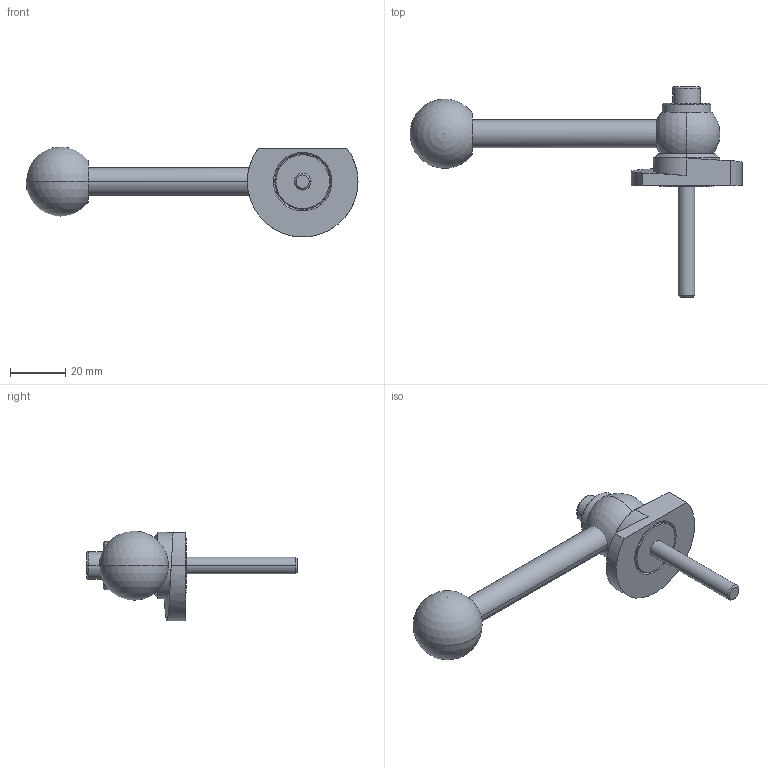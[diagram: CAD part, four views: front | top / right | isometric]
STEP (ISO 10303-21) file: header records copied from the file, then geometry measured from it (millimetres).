
FILE_DESCRIPTION (( 'STEP AP214' ), '1' );
FILE_NAME ('918.1-40-GVS-L-40.step', '2024-05-15T12:59:22', ( '' ), ( '' ), 'SwSTEP 2.0', 'SolidWorks 2022', '' );
FILE_SCHEMA (( 'AUTOMOTIVE_DESIGN' ));
Length unit declared in the file: millimetre
Products named in the file (1): 918.1-40-GVS-L-40
Bounding box: 120 x 76 x 32.5 mm (x, y, z)
Volume: 30638.8 mm3; surface area: 11493 mm2
Topology: 1 solids, 1 shells, 62 faces, 141 edges, 89 vertices
Faces by surface type: plane 20, cylinder 19, cone 14, sphere 4, bspline 3, torus 2
Entity records: 2003 total; most frequent: CARTESIAN_POINT 614, DIRECTION 304, ORIENTED_EDGE 262, EDGE_CURVE 131, AXIS2_PLACEMENT_3D 125, VERTEX_POINT 83, EDGE_LOOP 74, CIRCLE 65
